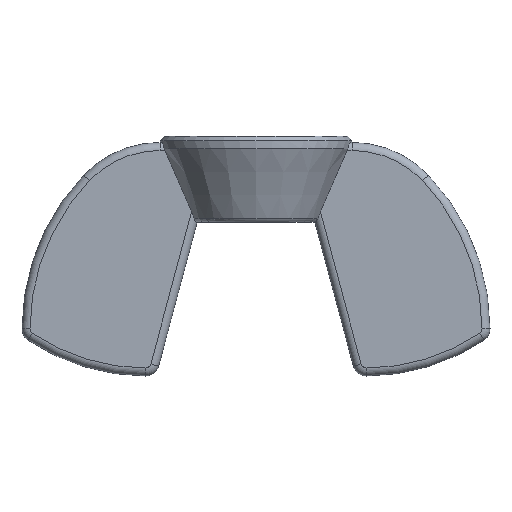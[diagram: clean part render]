
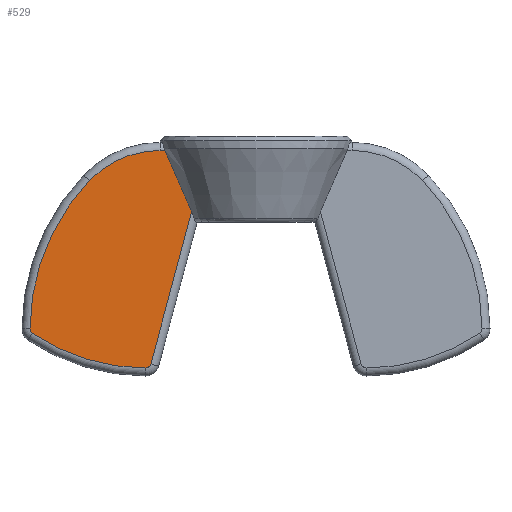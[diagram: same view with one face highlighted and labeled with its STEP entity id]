
A CAD part, front view. The second image highlights one B-rep face of the part: STEP entity #529.
In plain terms, the highlighted planar face has unit normal (0, -1, 0).
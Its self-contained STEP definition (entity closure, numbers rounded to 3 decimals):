
#66 = VERTEX_POINT ( 'NONE', #1839 ) ;
#87 = CARTESIAN_POINT ( 'NONE',  ( -9.417, -1., -8.039 ) ) ;
#102 = CARTESIAN_POINT ( 'NONE',  ( -3.148, -1., -4.899 ) ) ;
#130 = CARTESIAN_POINT ( 'NONE',  ( -4.596, -1., -9.444 ) ) ;
#150 = CARTESIAN_POINT ( 'NONE',  ( -3.797, -1., -0.603 ) ) ;
#214 = CIRCLE ( 'NONE', #2642, 8.446 ) ;
#299 = CARTESIAN_POINT ( 'NONE',  ( -4., -1., -0.603 ) ) ;
#348 = ORIENTED_EDGE ( 'NONE', *, *, #2723, .F. ) ;
#375 = VERTEX_POINT ( 'NONE', #454 ) ;
#383 = AXIS2_PLACEMENT_3D ( 'NONE', #2929, #1119, #3245 ) ;
#428 = DIRECTION ( 'NONE',  ( 0., 0., 1. ) ) ;
#454 = CARTESIAN_POINT ( 'NONE',  ( -2.682, -1., -3.161 ) ) ;
#469 = DIRECTION ( 'NONE',  ( 0., 1., 0. ) ) ;
#529 = ADVANCED_FACE ( 'NONE', ( #3363 ), #592, .F. ) ;
#545 = B_SPLINE_CURVE_WITH_KNOTS ( 'NONE', 3,
 ( #150, #3502, #2614, #773 ),
 .UNSPECIFIED., .F., .F.,
 ( 4, 4 ),
 ( 0.002, 0.004 ),
 .UNSPECIFIED. ) ;
#572 = EDGE_CURVE ( 'NONE', #3857, #66, #214, .T. ) ;
#592 = PLANE ( 'NONE',  #3355 ) ;
#713 = EDGE_CURVE ( 'NONE', #375, #3102, #849, .T. ) ;
#773 = CARTESIAN_POINT ( 'NONE',  ( -2.682, -1., -3.161 ) ) ;
#831 = CARTESIAN_POINT ( 'NONE',  ( -4.596, -1., -9.667 ) ) ;
#849 = LINE ( 'NONE', #102, #1568 ) ;
#865 = ORIENTED_EDGE ( 'NONE', *, *, #2389, .F. ) ;
#906 = AXIS2_PLACEMENT_3D ( 'NONE', #2329, #469, #2625 ) ;
#908 = DIRECTION ( 'NONE',  ( 0., 0., 1. ) ) ;
#1119 = DIRECTION ( 'NONE',  ( 0., 1., 0. ) ) ;
#1279 = ORIENTED_EDGE ( 'NONE', *, *, #713, .F. ) ;
#1334 = VERTEX_POINT ( 'NONE', #2911 ) ;
#1344 = AXIS2_PLACEMENT_3D ( 'NONE', #130, #2284, #428 ) ;
#1366 = DIRECTION ( 'NONE',  ( 0., 1., 0. ) ) ;
#1517 = EDGE_CURVE ( 'NONE', #3102, #3857, #2004, .T. ) ;
#1545 = DIRECTION ( 'NONE',  ( 0., 1., 0. ) ) ;
#1568 = VECTOR ( 'NONE', #1951, 1000. ) ;
#1670 = AXIS2_PLACEMENT_3D ( 'NONE', #3166, #1366, #3482 ) ;
#1738 = VERTEX_POINT ( 'NONE', #299 ) ;
#1839 = CARTESIAN_POINT ( 'NONE',  ( -9.319, -1., -8.223 ) ) ;
#1858 = EDGE_LOOP ( 'NONE', ( #865, #2153, #348, #2354, #2824, #3283, #2187, #1279 ) ) ;
#1927 = CARTESIAN_POINT ( 'NONE',  ( -4., -1., -0.603 ) ) ;
#1951 = DIRECTION ( 'NONE',  ( -0.259, 0., -0.966 ) ) ;
#2004 = CIRCLE ( 'NONE', #1344, 0.222 ) ;
#2153 = ORIENTED_EDGE ( 'NONE', *, *, #3741, .F. ) ;
#2187 = ORIENTED_EDGE ( 'NONE', *, *, #1517, .F. ) ;
#2284 = DIRECTION ( 'NONE',  ( 0., 1., 0. ) ) ;
#2329 = CARTESIAN_POINT ( 'NONE',  ( -9.194, -1., -8.039 ) ) ;
#2344 = CARTESIAN_POINT ( 'NONE',  ( -3.797, -1., -0.603 ) ) ;
#2354 = ORIENTED_EDGE ( 'NONE', *, *, #3241, .F. ) ;
#2383 = VECTOR ( 'NONE', #3712, 1000. ) ;
#2389 = EDGE_CURVE ( 'NONE', #2851, #375, #545, .T. ) ;
#2415 = EDGE_CURVE ( 'NONE', #66, #3069, #2525, .T. ) ;
#2445 = CIRCLE ( 'NONE', #1670, 4.068 ) ;
#2470 = LINE ( 'NONE', #1927, #2383 ) ;
#2525 = CIRCLE ( 'NONE', #906, 0.222 ) ;
#2614 = CARTESIAN_POINT ( 'NONE',  ( -3.06, -1., -2.311 ) ) ;
#2625 = DIRECTION ( 'NONE',  ( 0., 0., 1. ) ) ;
#2642 = AXIS2_PLACEMENT_3D ( 'NONE', #3353, #1545, #3667 ) ;
#2723 = EDGE_CURVE ( 'NONE', #1334, #1738, #2445, .T. ) ;
#2736 = DIRECTION ( 'NONE',  ( 0., 1., 0. ) ) ;
#2824 = ORIENTED_EDGE ( 'NONE', *, *, #2415, .F. ) ;
#2837 = CARTESIAN_POINT ( 'NONE',  ( -4.381, -1., -9.502 ) ) ;
#2851 = VERTEX_POINT ( 'NONE', #2344 ) ;
#2911 = CARTESIAN_POINT ( 'NONE',  ( -6.943, -1., -1.863 ) ) ;
#2929 = CARTESIAN_POINT ( 'NONE',  ( -0.471, -1., -8.039 ) ) ;
#3069 = VERTEX_POINT ( 'NONE', #87 ) ;
#3102 = VERTEX_POINT ( 'NONE', #2837 ) ;
#3166 = CARTESIAN_POINT ( 'NONE',  ( -4., -1., -4.671 ) ) ;
#3241 = EDGE_CURVE ( 'NONE', #3069, #1334, #3416, .T. ) ;
#3245 = DIRECTION ( 'NONE',  ( 0., 0., 1. ) ) ;
#3283 = ORIENTED_EDGE ( 'NONE', *, *, #572, .F. ) ;
#3353 = CARTESIAN_POINT ( 'NONE',  ( -4.596, -1., -1.221 ) ) ;
#3355 = AXIS2_PLACEMENT_3D ( 'NONE', #3935, #2736, #908 ) ;
#3363 = FACE_OUTER_BOUND ( 'NONE', #1858, .T. ) ;
#3416 = CIRCLE ( 'NONE', #383, 8.946 ) ;
#3482 = DIRECTION ( 'NONE',  ( 0., 0., 1. ) ) ;
#3502 = CARTESIAN_POINT ( 'NONE',  ( -3.429, -1., -1.458 ) ) ;
#3667 = DIRECTION ( 'NONE',  ( 0., 0., 1. ) ) ;
#3712 = DIRECTION ( 'NONE',  ( 1., 0., 0. ) ) ;
#3741 = EDGE_CURVE ( 'NONE', #1738, #2851, #2470, .T. ) ;
#3857 = VERTEX_POINT ( 'NONE', #831 ) ;
#3935 = CARTESIAN_POINT ( 'NONE',  ( -4., -1., -4.671 ) ) ;
